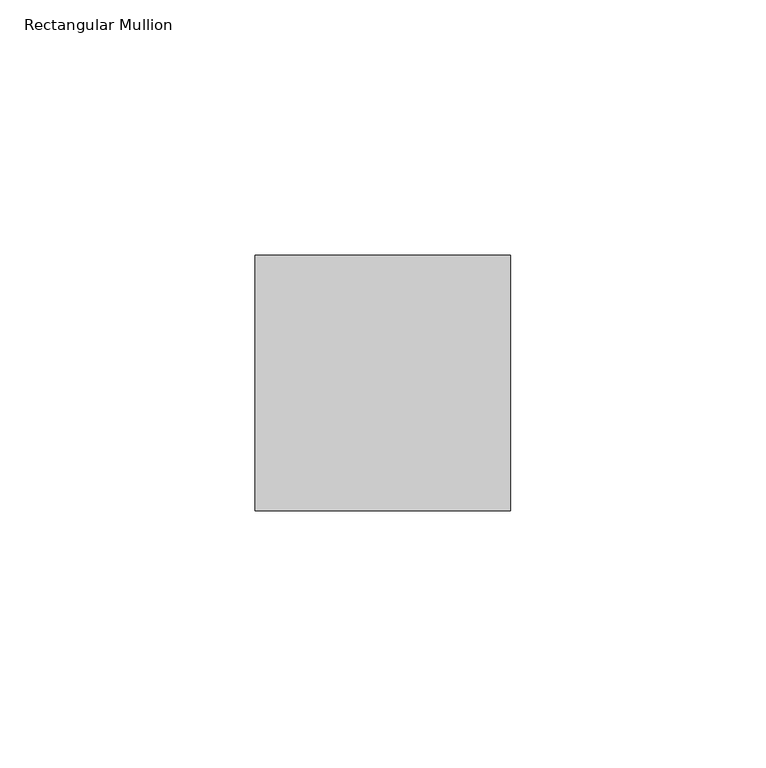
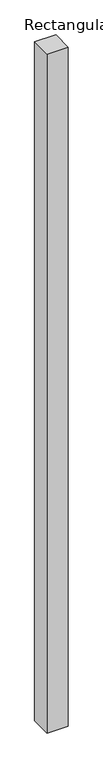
"""IFC4 building model written with IfcOpenShell, lengths in millimetres: member geometry, Rectangular Mullion : Mullion_Curtain Wall_Generic Showcase_50x50mm."""

from ifc_helpers import new_model, si_unit, frame, origin, place, context, project, spatial, polyline, outline, extrude, source, transform, mapped, element, save


def rectangular_mullion_888ece7a(model_context):
    return source(origin(), model_context, "Body", "SweptSolid", [
        extrude(outline(polyline([(25.0, 50.0), (25.0, 0.0), (-25.0, 0.0), (-25.0, 50.0), (25.0, 50.0)])), frame((0.0, 0.0, -1694.45347), z_axis=(0.0, 0.0, 1.0), x_axis=(1.0, 0.0, 0.0)), (0.0, 0.0, 1.0), 1694.45347),
    ])


if __name__ == "__main__":
    model = new_model("IFC4")
    model_context = context("Model", 3, world=origin())
    ifc_project = project(units=[si_unit("LENGTHUNIT", "METRE", prefix="MILLI")], contexts=[model_context])
    site = spatial("IfcSite", under=ifc_project)
    building = spatial("IfcBuilding", under=site)
    placement = place(None, origin())
    rectangular_mullion_shape = rectangular_mullion_888ece7a(model_context)
    element("IfcMember", 1, ObjectType="Rectangular Mullion : Mullion_Curtain Wall_Generic Showcase_50x50mm", at=placement, inside=building, context=model_context, shape_type="MappedRepresentation", body=[
        mapped(rectangular_mullion_shape, transform((0.0, 0.0, 0.0), x_axis=(1.0, 0.0, 0.0), y_axis=(0.0, 1.0, 0.0), z_axis=(0.0, 0.0, 1.0))),
    ])
    save(model, "model.ifc")
